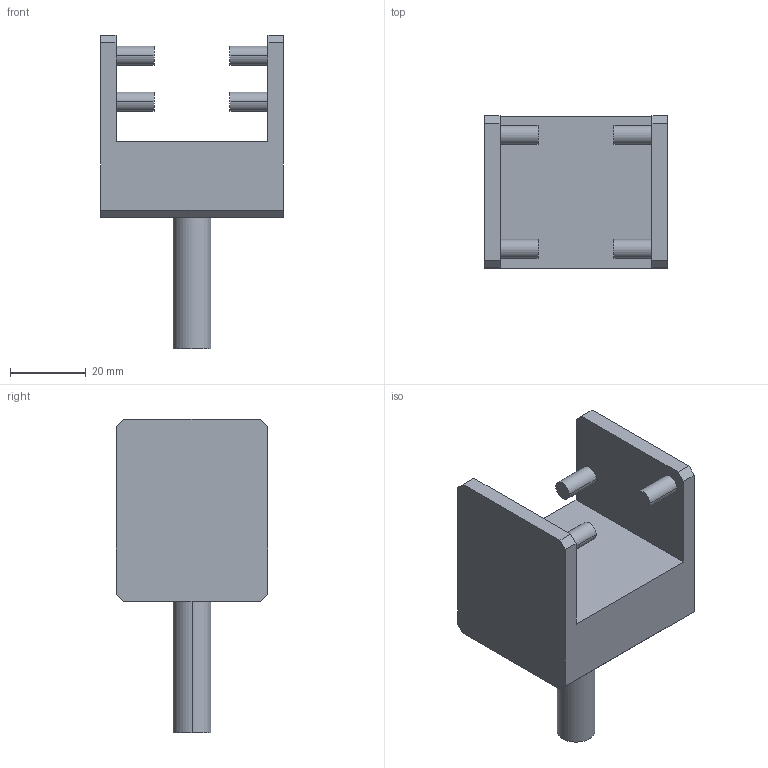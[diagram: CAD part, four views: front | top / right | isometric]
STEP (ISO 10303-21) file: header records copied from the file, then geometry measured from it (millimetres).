
FILE_DESCRIPTION (( 'STEP AP203' ), '1' );
FILE_NAME ('mount.step', '2009-04-22T20:39:09', ( 'USER' ), ( '' ), 'SwSTEP 2.0', 'SolidWorks 2005204', '' );
FILE_SCHEMA (( 'CONFIG_CONTROL_DESIGN' ));
Length unit declared in the file: millimetre
Products named in the file (1): mount
Bounding box: 48 x 40 x 82.5 mm (x, y, z)
Volume: 50631 mm3; surface area: 13845 mm2
Topology: 1 solids, 1 shells, 31 faces, 72 edges, 48 vertices
Faces by surface type: plane 21, cylinder 10
Entity records: 963 total; most frequent: DIRECTION 156, CARTESIAN_POINT 152, ORIENTED_EDGE 144, EDGE_CURVE 72, VECTOR 52, LINE 52, AXIS2_PLACEMENT_3D 52, VERTEX_POINT 48
